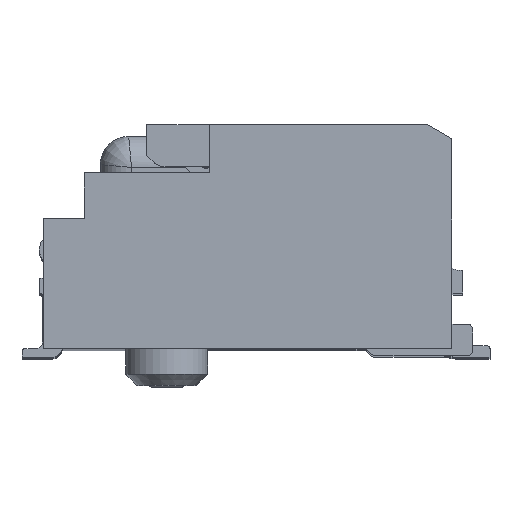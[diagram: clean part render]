
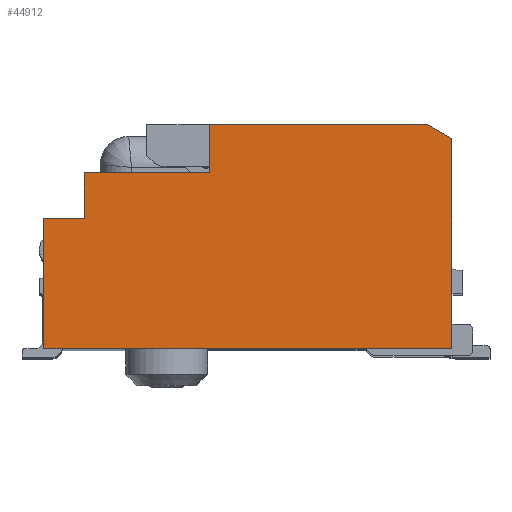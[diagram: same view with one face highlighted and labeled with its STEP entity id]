
A CAD part, top view. The second image highlights one B-rep face of the part: STEP entity #44912.
In plain terms, the highlighted planar face has unit normal (0, 0, 1).
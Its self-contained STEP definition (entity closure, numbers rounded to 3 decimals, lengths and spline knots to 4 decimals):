
#2044=DIRECTION('',(0.,1.,0.));
#2045=VECTOR('',#2044,0.81);
#2046=CARTESIAN_POINT('',(-64.435,12.8019,10.95));
#2047=LINE('',#2046,#2045);
#2048=DIRECTION('',(1.,0.,0.));
#2049=VECTOR('',#2048,2.2);
#2050=CARTESIAN_POINT('',(-64.435,13.6119,10.95));
#2051=LINE('',#2050,#2049);
#2052=DIRECTION('',(0.,1.,0.));
#2053=VECTOR('',#2052,0.85);
#2054=CARTESIAN_POINT('',(-62.235,13.6119,10.95));
#2055=LINE('',#2054,#2053);
#2056=DIRECTION('',(0.866,-0.5,0.));
#2057=VECTOR('',#2056,0.5);
#2058=CARTESIAN_POINT('',(-58.3881,14.4619,10.95));
#2059=LINE('',#2058,#2057);
#2060=DIRECTION('',(0.,-1.,0.));
#2061=VECTOR('',#2060,3.7);
#2062=CARTESIAN_POINT('',(-57.955,14.2119,10.95));
#2063=LINE('',#2062,#2061);
#2064=DIRECTION('',(-1.,0.,0.));
#2065=VECTOR('',#2064,7.2);
#2066=CARTESIAN_POINT('',(-57.955,10.5119,10.95));
#2067=LINE('',#2066,#2065);
#2068=DIRECTION('',(0.,1.,0.));
#2069=VECTOR('',#2068,2.29);
#2070=CARTESIAN_POINT('',(-65.155,10.5119,10.95));
#2071=LINE('',#2070,#2069);
#2072=DIRECTION('',(1.,0.,0.));
#2073=VECTOR('',#2072,0.72);
#2074=CARTESIAN_POINT('',(-65.155,12.8019,10.95));
#2075=LINE('',#2074,#2073);
#2670=DIRECTION('',(-1.,0.,0.));
#2671=VECTOR('',#2670,3.847);
#2672=CARTESIAN_POINT('',(-58.3881,14.4619,10.95));
#2673=LINE('',#2672,#2671);
#33820=CARTESIAN_POINT('',(-65.155,12.8019,10.95));
#33821=VERTEX_POINT('',#33820);
#33822=CARTESIAN_POINT('',(-65.155,10.5119,10.95));
#33823=VERTEX_POINT('',#33822);
#35640=CARTESIAN_POINT('',(-57.955,10.5119,10.95));
#35641=VERTEX_POINT('',#35640);
#35642=CARTESIAN_POINT('',(-57.955,14.2119,10.95));
#35643=VERTEX_POINT('',#35642);
#36056=CARTESIAN_POINT('',(-58.3881,14.4619,10.95));
#36057=VERTEX_POINT('',#36056);
#36058=CARTESIAN_POINT('',(-62.235,14.4619,10.95));
#36059=VERTEX_POINT('',#36058);
#36066=CARTESIAN_POINT('',(-64.435,12.8019,10.95));
#36067=CARTESIAN_POINT('',(-64.435,13.6119,10.95));
#36068=VERTEX_POINT('',#36066);
#36069=VERTEX_POINT('',#36067);
#36070=CARTESIAN_POINT('',(-62.235,13.6119,10.95));
#36071=VERTEX_POINT('',#36070);
#44890=CARTESIAN_POINT('',(-65.155,12.8519,10.95));
#44891=DIRECTION('',(0.,0.,-1.));
#44892=DIRECTION('',(-1.,0.,0.));
#44893=AXIS2_PLACEMENT_3D('',#44890,#44891,#44892);
#44894=PLANE('',#44893);
#44896=ORIENTED_EDGE('',*,*,#44895,.T.);
#44898=ORIENTED_EDGE('',*,*,#44897,.T.);
#44900=ORIENTED_EDGE('',*,*,#44899,.T.);
#44902=ORIENTED_EDGE('',*,*,#44901,.F.);
#44904=ORIENTED_EDGE('',*,*,#44903,.T.);
#44905=ORIENTED_EDGE('',*,*,#44602,.T.);
#44906=ORIENTED_EDGE('',*,*,#44064,.T.);
#44907=ORIENTED_EDGE('',*,*,#42616,.T.);
#44909=ORIENTED_EDGE('',*,*,#44908,.T.);
#44910=EDGE_LOOP('',(#44896,#44898,#44900,#44902,#44904,#44905,#44906,#44907,
#44909));
#44911=FACE_OUTER_BOUND('',#44910,.F.);
#44912=ADVANCED_FACE('',(#44911),#44894,.F.);
#42616=EDGE_CURVE('',#33823,#33821,#2071,.T.);
#44064=EDGE_CURVE('',#35641,#33823,#2067,.T.);
#44602=EDGE_CURVE('',#35643,#35641,#2063,.T.);
#44895=EDGE_CURVE('',#36068,#36069,#2047,.T.);
#44897=EDGE_CURVE('',#36069,#36071,#2051,.T.);
#44899=EDGE_CURVE('',#36071,#36059,#2055,.T.);
#44901=EDGE_CURVE('',#36057,#36059,#2673,.T.);
#44903=EDGE_CURVE('',#36057,#35643,#2059,.T.);
#44908=EDGE_CURVE('',#33821,#36068,#2075,.T.);
